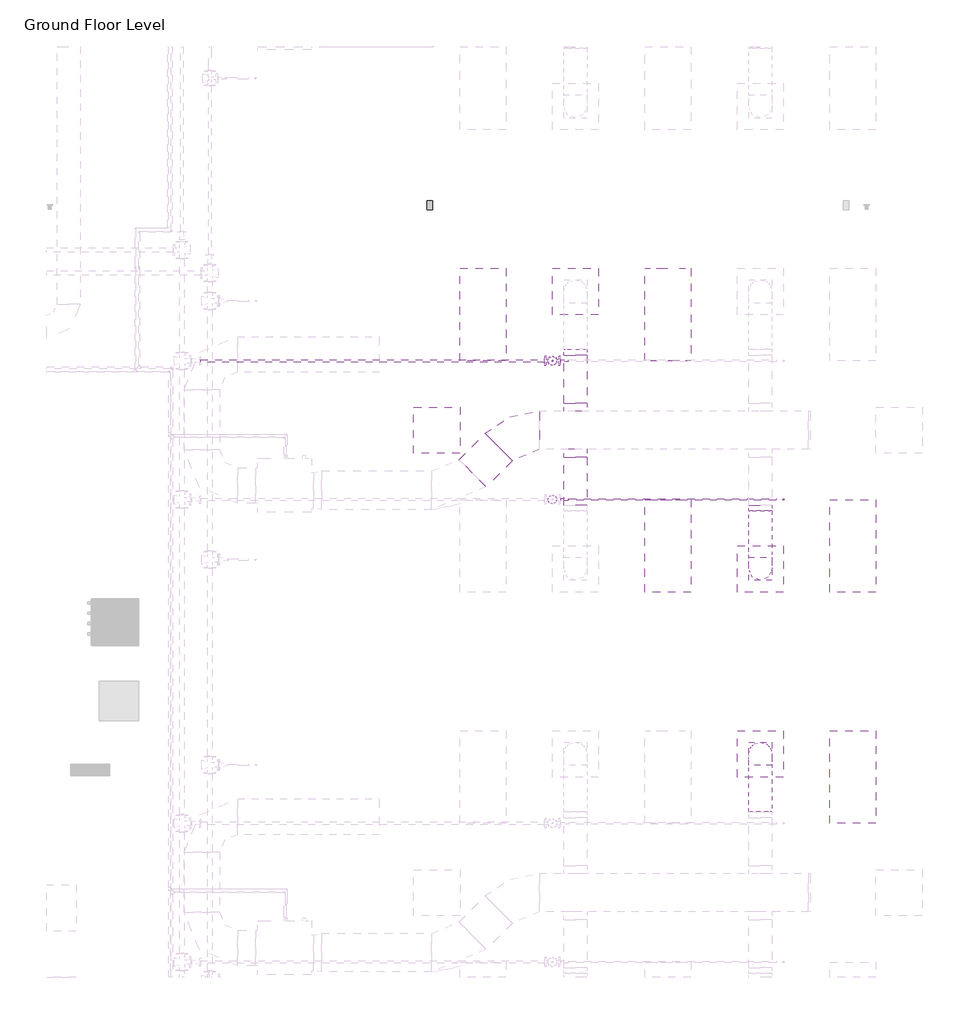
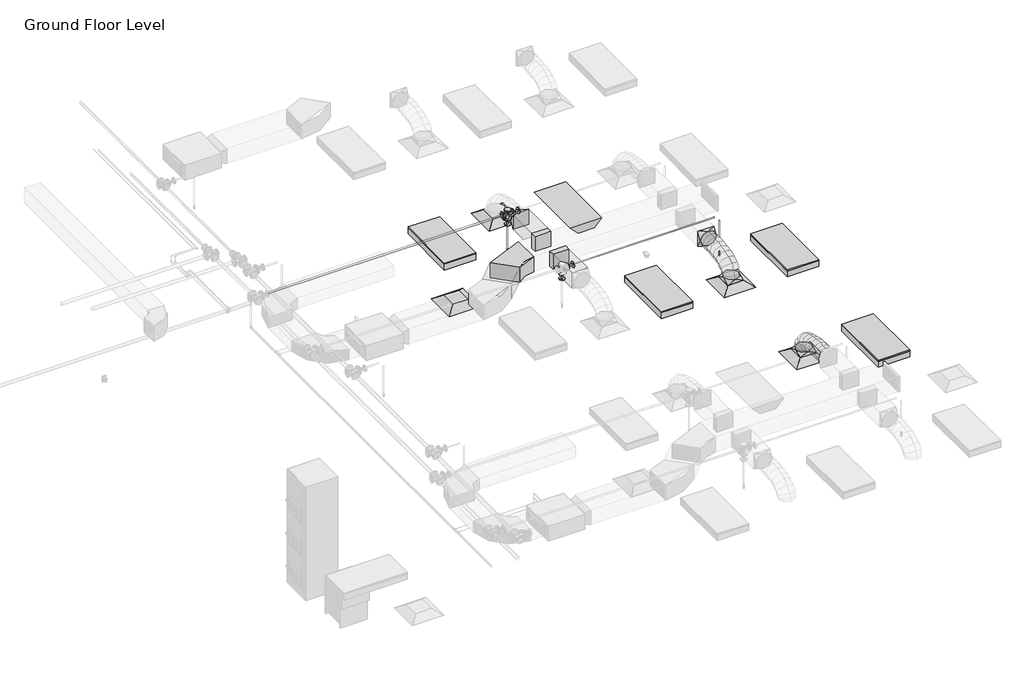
# One storey, part 69 of 74: 7 duct fittings, 5 duct segments, 5 light fixtures, 5 pipe fittings, 4 air terminals, 4 pipe segments, 2 fire suppression terminals, 1 proxy.
"""IFC4 building model written with IfcOpenShell, lengths in millimetres."""

from ifc_helpers import new_model, si_unit, point, frame, frame_2d, origin, place, context, project, spatial, polyline, circle_curve, ellipse_curve, trimmed, segment, composite_curve, outline, extrude, transform, mapped, element, save
from ifc_brep_helpers import plane_surface, cylinder_surface, advanced_brep
from components import m_return_diffuser_600_x_600_face_300_x_300_connection_ff221211, m_duplex_receptacle_standard_10251bba, m_rectangular_elbow_radius_1_5_w_acc56c25, m_rectangular_takeoff_standard_cb0ccb98, m_rectangular_takeoff_standard_2be5eba1, m_rectangular_to_round_transition_angle_45_degree_641efff0, m_sprinkler_dry_pendent_hosted_15_mm_dry_pendent_9bda8e11, m_emergency_recessed_lighting_fixture_600x1200_277_5b10b25d, m_troffer_light_parabolic_rectangular1_0600x1200mm_4_lamp_86473d4a, m_reducer_flanged_cs_class_150_standard_ccf252ad, m_tee_round_base_flanged_cs_class_150_standard_7e5987a1

model = new_model("IFC4")

# Units and contexts
model_context = context("Model", 3, world=origin())
ifc_project = project(units=[si_unit("LENGTHUNIT", "METRE", prefix="MILLI")], contexts=[model_context])

# Site, building, storey
site = spatial("IfcSite", under=ifc_project)
building = spatial("IfcBuilding", under=site)
storey = spatial("IfcBuildingStorey", under=building, Name="Ground Floor Level", Elevation=900.0)

# Air terminals
placement = place(None, origin())
m_return_diffuser_600_x_600_face_300_x_300_connection_shape = m_return_diffuser_600_x_600_face_300_x_300_connection_ff221211(model_context)
element("IfcAirTerminal", 1, ObjectType="M_Return Diffuser : 600 x 600 Face 300 x 300 Connection", at=placement, inside=storey, context=model_context, shape_type="MappedRepresentation", body=[
    mapped(m_return_diffuser_600_x_600_face_300_x_300_connection_shape, transform((8942.7672395, 12735.2153534, 3650.0), x_axis=(1.0, 0.0, 0.0), y_axis=(0.0, 1.0, 0.0), z_axis=(0.0, 0.0, 1.0))),
])
element("IfcAirTerminal", 2, ObjectType="M_Supply Diffuser : 600 x 600 Face 300 x 300 Connection", at=placement, inside=storey, context=model_context, shape_type="MappedRepresentation", body=[
    mapped(m_return_diffuser_600_x_600_face_300_x_300_connection_shape, transform((10742.7672395, 14535.2153534, 3650.0), x_axis=(1.0, 0.0, 0.0), y_axis=(0.0, 1.0, 0.0), z_axis=(0.0, 0.0, 1.0))),
])
element("IfcAirTerminal", 3, ObjectType="M_Supply Diffuser : 600 x 600 Face 300 x 300 Connection", at=placement, inside=storey, context=model_context, shape_type="MappedRepresentation", body=[
    mapped(m_return_diffuser_600_x_600_face_300_x_300_connection_shape, transform((13142.7672395, 10935.2153534, 3650.0), x_axis=(1.0, 0.0, 0.0), y_axis=(0.0, 1.0, 0.0), z_axis=(0.0, 0.0, 1.0))),
])
element("IfcAirTerminal", 4, ObjectType="M_Supply Diffuser : 600 x 600 Face 300 x 300 Connection", at=placement, inside=storey, context=model_context, shape_type="MappedRepresentation", body=[
    mapped(m_return_diffuser_600_x_600_face_300_x_300_connection_shape, transform((13142.7672395, 8535.2153534, 3650.0), x_axis=(1.0, 0.0, 0.0), y_axis=(0.0, 1.0, 0.0), z_axis=(0.0, 0.0, 1.0))),
])

# Proxy
m_duplex_receptacle_standard_shape = m_duplex_receptacle_standard_10251bba(model_context)
element("IfcBuildingElementProxy", 5, Name="M_Duplex Receptacle : Standard", ObjectType="M_Duplex Receptacle : Standard", at=placement, inside=storey, context=model_context, shape_type="MappedRepresentation", body=[
    mapped(m_duplex_receptacle_standard_shape, transform((8852.7672395, 15655.2153534, 1000.0), x_axis=(1.0, 0.0, 0.0), y_axis=(0.0, 1.0, 0.0), z_axis=(0.0, 0.0, 1.0))),
])

# Duct fittings
m_rectangular_elbow_radius_1_5_w_shape = m_rectangular_elbow_radius_1_5_w_acc56c25(model_context)
element("IfcDuctFitting", 6, ObjectType="M_Rectangular Elbow - Radius : 1.5 W", at=placement, inside=storey, context=model_context, shape_type="MappedRepresentation", body=[
    mapped(m_rectangular_elbow_radius_1_5_w_shape, transform((9966.7301365, 12735.2153534, 4100.0), x_axis=(-1.0, 0.0, 0.0), y_axis=(0.0, -0.9999999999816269, 6.061864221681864e-06), z_axis=(0.0, 6.061864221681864e-06, 0.9999999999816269))),
])
m_rectangular_takeoff_standard_shape = m_rectangular_takeoff_standard_cb0ccb98(model_context)
element("IfcDuctFitting", 7, ObjectType="M_Rectangular Takeoff : Standard", at=placement, inside=storey, context=model_context, shape_type="MappedRepresentation", body=[
    mapped(m_rectangular_takeoff_standard_shape, transform((10742.7672395, 12985.2153534, 4100.0), x_axis=(0.0, 1.0, 0.0), y_axis=(1.0, 0.0, 0.0), z_axis=(0.0, 0.0, -1.0))),
])
m_rectangular_takeoff_standard_2_shape = m_rectangular_takeoff_standard_2be5eba1(model_context)
element("IfcDuctFitting", 8, ObjectType="M_Rectangular Takeoff : Standard", at=placement, inside=storey, context=model_context, shape_type="MappedRepresentation", body=[
    mapped(m_rectangular_takeoff_standard_2_shape, transform((10742.7672395, 12485.2153534, 4100.0), x_axis=(0.0, -1.0, 0.0), y_axis=(-1.0, 0.0, 0.0), z_axis=(0.0, 0.0, -1.0))),
])
m_rectangular_to_round_transition_angle_45_degree_shape = m_rectangular_to_round_transition_angle_45_degree_641efff0(model_context)
element("IfcDuctFitting", 9, ObjectType="M_Rectangular to Round Transition - Angle : 45 Degree", at=placement, inside=storey, context=model_context, shape_type="MappedRepresentation", body=[
    mapped(m_rectangular_to_round_transition_angle_45_degree_shape, transform((13142.7672395, 8535.2153534, 3751.6), x_axis=(0.0, 0.0, 1.0), y_axis=(-1.0, 0.0, 0.0), z_axis=(0.0, -1.0, 0.0))),
])
element("IfcDuctFitting", 10, ObjectType="M_Rectangular to Round Transition - Angle : 45 Degree", at=placement, inside=storey, context=model_context, shape_type="MappedRepresentation", body=[
    mapped(m_rectangular_to_round_transition_angle_45_degree_shape, transform((10742.7672395, 13707.8794221, 4100.0), x_axis=(0.0, 1.0, 0.0), y_axis=(-1.0, 0.0, 0.0), z_axis=(0.0, 0.0, 1.0))),
])
element("IfcDuctFitting", 11, ObjectType="M_Rectangular to Round Transition - Angle : 45 Degree", at=placement, inside=storey, context=model_context, shape_type="MappedRepresentation", body=[
    mapped(m_rectangular_to_round_transition_angle_45_degree_shape, transform((13142.7672395, 10935.2153534, 3751.6), x_axis=(0.0, 0.0, 1.0), y_axis=(-1.0, 0.0, 0.0), z_axis=(0.0, -1.0, 0.0))),
])
element("IfcDuctFitting", 12, ObjectType="M_Rectangular to Round Transition - Angle : 45 Degree", at=placement, inside=storey, context=model_context, shape_type="MappedRepresentation", body=[
    mapped(m_rectangular_to_round_transition_angle_45_degree_shape, transform((13142.7672395, 11762.5512847, 4100.0), x_axis=(0.0, -1.0, 0.0), y_axis=(1.0, 0.0, 0.0), z_axis=(0.0, 0.0, 1.0))),
])

# Duct segments
element("IfcDuctSegment", 13, ObjectType="Flex - Round", at=placement, inside=storey, context=model_context, shape_type="AdvancedBrep", body=[
    advanced_brep(
    [(13292.7672395, 8535.2153534, 3826.6), (13142.7672395, 8385.2153534, 3826.6), (12992.7672395, 8535.2153534, 3826.6), (13142.7672395, 8685.2153534, 3826.6), (13292.7672395, 8535.2153534, 3857.9377114), (13142.7672395, 8385.2153534, 3832.2944892), (12992.7672395, 8535.2153534, 3857.9377114), (13142.7672395, 8685.2153534, 3883.5809337), (13292.7672395, 8518.1994208, 3906.2505728), (13142.7672395, 8384.4614419, 3834.435049), (12992.7672395, 8518.1994208, 3906.2505728), (13142.7672395, 8651.9373998, 3978.0660967), (13292.7672395, 8471.0155405, 3968.7113131), (13142.7672395, 8366.8096412, 3857.8020236), (12992.7672395, 8471.0155405, 3968.7113131), (13142.7672395, 8575.2214397, 4079.6206026), (13292.7672395, 8399.4595883, 4016.0700639), (13142.7672395, 8330.5255327, 3881.8163788), (12992.7672395, 8399.4595883, 4016.0700639), (13142.7672395, 8468.3936439, 4150.3237489), (13292.7672395, 8309.3274403, 4050.4146682), (13142.7672395, 8265.7666771, 3906.4925606), (12992.7672395, 8309.3274403, 4050.4146682), (13142.7672395, 8352.8882035, 4194.3367758), (13292.7672395, 8206.4149725, 4073.8329691), (13142.7672395, 8179.8540485, 3926.0424542), (12992.7672395, 8206.4149725, 4073.8329691), (13142.7672395, 8232.9758965, 4221.6234841), (13292.7672395, 8096.5180607, 4088.4128097), (13142.7672395, 8081.3671584, 3939.1085462), (12992.7672395, 8096.5180607, 4088.4128097), (13142.7672395, 8111.6689631, 4237.7170733), (13292.7672395, 7985.4325811, 4096.242033), (13142.7672395, 7977.9272529, 3946.398915), (12992.7672395, 7985.4325811, 4096.242033), (13142.7672395, 7992.9379093, 4246.085151), (13292.7672395, 7878.9544096, 4099.4084821), (13142.7672395, 7876.2629165, 3949.4222102), (12992.7672395, 7878.9544096, 4099.4084821), (13142.7672395, 7881.6459027, 4249.394754), (13292.7672395, 7782.8794221, 4100.0), (13142.7672395, 7783.8029299, 4249.9971571), (12992.7672395, 7782.8794221, 4100.0), (13142.7672395, 7781.9559143, 3950.0028429)],
    [
        (0, 1, circle_curve(frame((13142.7672395, 8535.2153534, 3826.6), z_axis=(0.0, 0.0, -1.0), x_axis=(1.0, 0.0, 0.0)), 150.0)),
        (1, 2, circle_curve(frame((13142.7672395, 8535.2153534, 3826.6), z_axis=(0.0, 0.0, -1.0), x_axis=(1.0, 0.0, 0.0)), 150.0)),
        (2, 3, circle_curve(frame((13142.7672395, 8535.2153534, 3826.6), z_axis=(0.0, 0.0, -1.0), x_axis=(1.0, 0.0, 0.0)), 150.0)),
        (3, 0, circle_curve(frame((13142.7672395, 8535.2153534, 3826.6), z_axis=(0.0, 0.0, -1.0), x_axis=(1.0, 0.0, 0.0)), 150.0)),
        (0, 4),
        (4, 5, ellipse_curve(frame((13142.7672395, 8535.2153534, 3857.9377114), z_axis=(0.0, 0.16851014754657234, -0.9856999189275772), x_axis=(0.0, -0.9856999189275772, -0.1685101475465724)), 152.176131, 150.0)),
        (5, 1),
        (5, 6, ellipse_curve(frame((13142.7672395, 8535.2153534, 3857.9377114), z_axis=(0.0, 0.16851014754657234, -0.9856999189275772), x_axis=(0.0, -0.9856999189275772, -0.1685101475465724)), 152.176131, 150.0)),
        (6, 2),
        (6, 7, ellipse_curve(frame((13142.7672395, 8535.2153534, 3857.9377114), z_axis=(0.0, 0.16851014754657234, -0.9856999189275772), x_axis=(0.0, -0.9856999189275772, -0.1685101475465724)), 152.176131, 150.0)),
        (7, 3),
        (7, 4, ellipse_curve(frame((13142.7672395, 8535.2153534, 3857.9377114), z_axis=(0.0, 0.16851014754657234, -0.9856999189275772), x_axis=(0.0, -0.9856999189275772, -0.1685101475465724)), 152.176131, 150.0)),
        (4, 8),
        (8, 9, ellipse_curve(frame((13142.7672395, 8518.1994208, 3906.2505728), z_axis=(0.0, 0.4730922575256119, -0.8810128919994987), x_axis=(0.0, -0.8810128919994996, -0.47309225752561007)), 151.8002519, 150.0)),
        (9, 5),
        (9, 10, ellipse_curve(frame((13142.7672395, 8518.1994208, 3906.2505728), z_axis=(0.0, 0.4730922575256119, -0.8810128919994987), x_axis=(0.0, -0.8810128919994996, -0.47309225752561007)), 151.8002519, 150.0)),
        (10, 6),
        (10, 11, ellipse_curve(frame((13142.7672395, 8518.1994208, 3906.2505728), z_axis=(0.0, 0.4730922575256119, -0.8810128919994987), x_axis=(0.0, -0.8810128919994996, -0.47309225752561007)), 151.8002519, 150.0)),
        (11, 7),
        (11, 8, ellipse_curve(frame((13142.7672395, 8518.1994208, 3906.2505728), z_axis=(0.0, 0.4730922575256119, -0.8810128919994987), x_axis=(0.0, -0.8810128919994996, -0.47309225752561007)), 151.8002519, 150.0)),
        (8, 12),
        (12, 13, ellipse_curve(frame((13142.7672395, 8471.0155405, 3968.7113131), z_axis=(0.0, 0.7287877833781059, -0.6847396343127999), x_axis=(0.0, -0.6847396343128, -0.7287877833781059)), 152.1832446, 150.0)),
        (13, 9),
        (13, 14, ellipse_curve(frame((13142.7672395, 8471.0155405, 3968.7113131), z_axis=(0.0, 0.7287877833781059, -0.6847396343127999), x_axis=(0.0, -0.6847396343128, -0.7287877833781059)), 152.1832446, 150.0)),
        (14, 10),
        (14, 15, ellipse_curve(frame((13142.7672395, 8471.0155405, 3968.7113131), z_axis=(0.0, 0.7287877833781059, -0.6847396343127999), x_axis=(0.0, -0.6847396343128, -0.7287877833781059)), 152.1832446, 150.0)),
        (15, 11),
        (15, 12, ellipse_curve(frame((13142.7672395, 8471.0155405, 3968.7113131), z_axis=(0.0, 0.7287877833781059, -0.6847396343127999), x_axis=(0.0, -0.6847396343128, -0.7287877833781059)), 152.1832446, 150.0)),
        (12, 16),
        (16, 17, ellipse_curve(frame((13142.7672395, 8399.4595883, 4016.0700639), z_axis=(0.0, 0.8895859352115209, -0.4567678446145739), x_axis=(0.0, -0.4567678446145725, -0.8895859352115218)), 150.91705, 150.0)),
        (17, 13),
        (17, 18, ellipse_curve(frame((13142.7672395, 8399.4595883, 4016.0700639), z_axis=(0.0, 0.8895859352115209, -0.4567678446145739), x_axis=(0.0, -0.4567678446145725, -0.8895859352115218)), 150.91705, 150.0)),
        (18, 14),
        (18, 19, ellipse_curve(frame((13142.7672395, 8399.4595883, 4016.0700639), z_axis=(0.0, 0.8895859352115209, -0.4567678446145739), x_axis=(0.0, -0.4567678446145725, -0.8895859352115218)), 150.91705, 150.0)),
        (19, 15),
        (19, 16, ellipse_curve(frame((13142.7672395, 8399.4595883, 4016.0700639), z_axis=(0.0, 0.8895859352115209, -0.4567678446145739), x_axis=(0.0, -0.4567678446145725, -0.8895859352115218)), 150.91705, 150.0)),
        (16, 20),
        (20, 21, ellipse_curve(frame((13142.7672395, 8309.3274403, 4050.4146682), z_axis=(0.0, 0.9571203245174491, -0.28969067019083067), x_axis=(0.0, -0.28969067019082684, -0.9571203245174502)), 150.369921, 150.0)),
        (21, 17),
        (21, 22, ellipse_curve(frame((13142.7672395, 8309.3274403, 4050.4146682), z_axis=(0.0, 0.9571203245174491, -0.28969067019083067), x_axis=(0.0, -0.28969067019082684, -0.9571203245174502)), 150.369921, 150.0)),
        (22, 18),
        (22, 23, ellipse_curve(frame((13142.7672395, 8309.3274403, 4050.4146682), z_axis=(0.0, 0.9571203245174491, -0.28969067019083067), x_axis=(0.0, -0.28969067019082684, -0.9571203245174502)), 150.369921, 150.0)),
        (23, 19),
        (23, 20, ellipse_curve(frame((13142.7672395, 8309.3274403, 4050.4146682), z_axis=(0.0, 0.9571203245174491, -0.28969067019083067), x_axis=(0.0, -0.28969067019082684, -0.9571203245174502)), 150.369921, 150.0)),
        (20, 24),
        (24, 25, ellipse_curve(frame((13142.7672395, 8206.4149725, 4073.8329691), z_axis=(0.0, 0.9842313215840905, -0.17688613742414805), x_axis=(0.0, -0.17688613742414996, -0.9842313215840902)), 150.1583131, 150.0)),
        (25, 21),
        (25, 26, ellipse_curve(frame((13142.7672395, 8206.4149725, 4073.8329691), z_axis=(0.0, 0.9842313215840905, -0.17688613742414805), x_axis=(0.0, -0.17688613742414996, -0.9842313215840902)), 150.1583131, 150.0)),
        (26, 22),
        (26, 27, ellipse_curve(frame((13142.7672395, 8206.4149725, 4073.8329691), z_axis=(0.0, 0.9842313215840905, -0.17688613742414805), x_axis=(0.0, -0.17688613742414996, -0.9842313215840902)), 150.1583131, 150.0)),
        (27, 23),
        (27, 24, ellipse_curve(frame((13142.7672395, 8206.4149725, 4073.8329691), z_axis=(0.0, 0.9842313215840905, -0.17688613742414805), x_axis=(0.0, -0.17688613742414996, -0.9842313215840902)), 150.1583131, 150.0)),
        (24, 28),
        (28, 29, ellipse_curve(frame((13142.7672395, 8096.5180607, 4088.4128097), z_axis=(0.0, 0.9948906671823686, -0.10095821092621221), x_axis=(0.0, -0.10095821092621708, -0.9948906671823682)), 150.0710264, 150.0)),
        (29, 25),
        (29, 30, ellipse_curve(frame((13142.7672395, 8096.5180607, 4088.4128097), z_axis=(0.0, 0.9948906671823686, -0.10095821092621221), x_axis=(0.0, -0.10095821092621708, -0.9948906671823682)), 150.0710264, 150.0)),
        (30, 26),
        (30, 31, ellipse_curve(frame((13142.7672395, 8096.5180607, 4088.4128097), z_axis=(0.0, 0.9948906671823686, -0.10095821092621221), x_axis=(0.0, -0.10095821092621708, -0.9948906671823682)), 150.0710264, 150.0)),
        (31, 27),
        (31, 28, ellipse_curve(frame((13142.7672395, 8096.5180607, 4088.4128097), z_axis=(0.0, 0.9948906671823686, -0.10095821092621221), x_axis=(0.0, -0.10095821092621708, -0.9948906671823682)), 150.0710264, 150.0)),
        (28, 32),
        (32, 33, ellipse_curve(frame((13142.7672395, 7985.4325811, 4096.242033), z_axis=(0.0, 0.9987479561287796, -0.05002519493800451), x_axis=(0.0, -0.050025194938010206, -0.9987479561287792)), 150.0309634, 150.0)),
        (33, 29),
        (33, 34, ellipse_curve(frame((13142.7672395, 7985.4325811, 4096.242033), z_axis=(0.0, 0.9987479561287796, -0.05002519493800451), x_axis=(0.0, -0.050025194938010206, -0.9987479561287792)), 150.0309634, 150.0)),
        (34, 30),
        (34, 35, ellipse_curve(frame((13142.7672395, 7985.4325811, 4096.242033), z_axis=(0.0, 0.9987479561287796, -0.05002519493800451), x_axis=(0.0, -0.050025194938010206, -0.9987479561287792)), 150.0309634, 150.0)),
        (35, 31),
        (35, 32, ellipse_curve(frame((13142.7672395, 7985.4325811, 4096.242033), z_axis=(0.0, 0.9987479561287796, -0.05002519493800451), x_axis=(0.0, -0.050025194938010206, -0.9987479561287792)), 150.0309634, 150.0)),
        (32, 36),
        (36, 37, ellipse_curve(frame((13142.7672395, 7878.9544096, 4099.4084821), z_axis=(0.0, 0.9998390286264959, -0.017942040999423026), x_axis=(0.0, -0.01794204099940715, -0.9998390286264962)), 150.0104193, 150.0)),
        (37, 33),
        (37, 38, ellipse_curve(frame((13142.7672395, 7878.9544096, 4099.4084821), z_axis=(0.0, 0.9998390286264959, -0.017942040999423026), x_axis=(0.0, -0.01794204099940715, -0.9998390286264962)), 150.0104193, 150.0)),
        (38, 34),
        (38, 39, ellipse_curve(frame((13142.7672395, 7878.9544096, 4099.4084821), z_axis=(0.0, 0.9998390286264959, -0.017942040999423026), x_axis=(0.0, -0.01794204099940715, -0.9998390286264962)), 150.0104193, 150.0)),
        (39, 35),
        (39, 36, ellipse_curve(frame((13142.7672395, 7878.9544096, 4099.4084821), z_axis=(0.0, 0.9998390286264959, -0.017942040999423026), x_axis=(0.0, -0.01794204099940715, -0.9998390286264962)), 150.0104193, 150.0)),
        (40, 41, circle_curve(frame((13142.7672395, 7782.8794221, 4100.0), z_axis=(0.0, -0.9999810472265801, 0.006156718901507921), x_axis=(1.0, 0.0, 0.0)), 150.0)),
        (41, 42, circle_curve(frame((13142.7672395, 7782.8794221, 4100.0), z_axis=(0.0, -0.9999810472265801, 0.006156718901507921), x_axis=(1.0, 0.0, 0.0)), 150.0)),
        (42, 43, circle_curve(frame((13142.7672395, 7782.8794221, 4100.0), z_axis=(0.0, -0.9999810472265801, 0.006156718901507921), x_axis=(1.0, 0.0, 0.0)), 150.0)),
        (43, 40, circle_curve(frame((13142.7672395, 7782.8794221, 4100.0), z_axis=(0.0, -0.9999810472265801, 0.006156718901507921), x_axis=(1.0, 0.0, 0.0)), 150.0)),
        (36, 40),
        (43, 37),
        (42, 38),
        (41, 39),
    ],
    [
        plane_surface(frame((13142.7672395, 8385.2153534, 3826.6), z_axis=(0.0, 0.0, -1.0), x_axis=(1.0, 0.0, 0.0))),
        cylinder_surface(frame((13142.7672395, 8535.2153534, 3826.6), z_axis=(0.0, 0.0, -1.0), x_axis=(1.0, 0.0, 0.0)), 150.0),
        cylinder_surface(frame((13142.7672395, 8535.2153534, 3857.9377114), z_axis=(0.0, 0.3322008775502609, -0.9432086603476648), x_axis=(1.0, 0.0, 0.0)), 150.0),
        cylinder_surface(frame((13142.7672395, 8518.1994208, 3906.2505728), z_axis=(0.0, 0.6027625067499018, -0.7979206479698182), x_axis=(1.0, 0.0, 0.0)), 150.0),
        cylinder_surface(frame((13142.7672395, 8471.0155405, 3968.7113131), z_axis=(0.0, 0.8339024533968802, -0.5519118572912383), x_axis=(1.0, 0.0, 0.0)), 150.0),
        cylinder_surface(frame((13142.7672395, 8399.4595883, 4016.0700639), z_axis=(0.0, 0.934458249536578, -0.35607271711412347), x_axis=(1.0, 0.0, 0.0)), 150.0),
        cylinder_surface(frame((13142.7672395, 8309.3274403, 4050.4146682), z_axis=(0.0, 0.9750732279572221, -0.22188330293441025), x_axis=(1.0, 0.0, 0.0)), 150.0),
        cylinder_surface(frame((13142.7672395, 8206.4149725, 4073.8329691), z_axis=(0.0, 0.9913140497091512, -0.1315159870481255), x_axis=(1.0, 0.0, 0.0)), 150.0),
        cylinder_surface(frame((13142.7672395, 8096.5180607, 4088.4128097), z_axis=(0.0, 0.9975255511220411, -0.07030487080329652), x_axis=(1.0, 0.0, 0.0)), 150.0),
        cylinder_surface(frame((13142.7672395, 7985.4325811, 4096.242033), z_axis=(0.0, 0.9995581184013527, -0.02972487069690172), x_axis=(1.0, 0.0, 0.0)), 150.0),
        plane_surface(frame((13142.7672395, 7781.9559143, 3950.0028429), z_axis=(0.0, -0.9999810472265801, 0.006156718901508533), x_axis=(1.0, 0.0, 0.0))),
        cylinder_surface(frame((13142.7672395, 7878.9544096, 4099.4084821), z_axis=(0.0, 0.9999810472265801, -0.006156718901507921), x_axis=(1.0, 0.0, 0.0)), 150.0),
    ],
    [
        (0, [[1, 2, 3, 4]]),
        (1, [[-1, 5, 6, 7]]),
        (1, [[-2, -7, 8, 9]]),
        (1, [[-3, -9, 10, 11]]),
        (1, [[-4, -11, 12, -5]]),
        (2, [[-6, 13, 14, 15]]),
        (2, [[-8, -15, 16, 17]]),
        (2, [[-10, -17, 18, 19]]),
        (2, [[-12, -19, 20, -13]]),
        (3, [[-14, 21, 22, 23]]),
        (3, [[-16, -23, 24, 25]]),
        (3, [[-18, -25, 26, 27]]),
        (3, [[-20, -27, 28, -21]]),
        (4, [[-22, 29, 30, 31]]),
        (4, [[-24, -31, 32, 33]]),
        (4, [[-26, -33, 34, 35]]),
        (4, [[-28, -35, 36, -29]]),
        (5, [[-30, 37, 38, 39]]),
        (5, [[-32, -39, 40, 41]]),
        (5, [[-34, -41, 42, 43]]),
        (5, [[-36, -43, 44, -37]]),
        (6, [[-38, 45, 46, 47]]),
        (6, [[-40, -47, 48, 49]]),
        (6, [[-42, -49, 50, 51]]),
        (6, [[-44, -51, 52, -45]]),
        (7, [[-46, 53, 54, 55]]),
        (7, [[-48, -55, 56, 57]]),
        (7, [[-50, -57, 58, 59]]),
        (7, [[-52, -59, 60, -53]]),
        (8, [[-54, 61, 62, 63]]),
        (8, [[-56, -63, 64, 65]]),
        (8, [[-58, -65, 66, 67]]),
        (8, [[-60, -67, 68, -61]]),
        (9, [[-62, 69, 70, 71]]),
        (9, [[-64, -71, 72, 73]]),
        (9, [[-66, -73, 74, 75]]),
        (9, [[-68, -75, 76, -69]]),
        (10, [[77, 78, 79, 80]]),
        (11, [[-70, 81, -80, 82]]),
        (11, [[-72, -82, -79, 83]]),
        (11, [[-74, -83, -78, 84]]),
        (11, [[-76, -84, -77, -81]]),
    ],
),
])
element("IfcDuctSegment", 14, ObjectType="Flex - Round", at=placement, inside=storey, context=model_context, shape_type="AdvancedBrep", body=[
    advanced_brep(
    [(13292.7672395, 10935.2153534, 3826.6), (13142.7672395, 10785.2153534, 3826.6), (12992.7672395, 10935.2153534, 3826.6), (13142.7672395, 11085.2153534, 3826.6), (13292.7672395, 10935.2153534, 3857.9377114), (13142.7672395, 10785.2153534, 3883.5809337), (12992.7672395, 10935.2153534, 3857.9377114), (13142.7672395, 11085.2153534, 3832.2944892), (13292.7672395, 10952.2312859, 3906.2505728), (13142.7672395, 10818.493307, 3978.0660967), (12992.7672395, 10952.2312859, 3906.2505728), (13142.7672395, 11085.9692649, 3834.435049), (13292.7672395, 10999.4151663, 3968.7113131), (13142.7672395, 10895.209267, 4079.6206026), (12992.7672395, 10999.4151663, 3968.7113131), (13142.7672395, 11103.6210655, 3857.8020236), (13292.7672395, 11070.9711184, 4016.0700639), (13142.7672395, 11002.0370628, 4150.3237489), (12992.7672395, 11070.9711184, 4016.0700639), (13142.7672395, 11139.9051741, 3881.8163788), (13292.7672395, 11161.1032664, 4050.4146682), (13142.7672395, 11117.5425033, 4194.3367758), (12992.7672395, 11161.1032664, 4050.4146682), (13142.7672395, 11204.6640296, 3906.4925606), (13292.7672395, 11264.0157343, 4073.8329691), (13142.7672395, 11237.4548103, 4221.6234841), (12992.7672395, 11264.0157343, 4073.8329691), (13142.7672395, 11290.5766583, 3926.0424542), (13292.7672395, 11373.912646, 4088.4128097), (13142.7672395, 11358.7617437, 4237.7170733), (12992.7672395, 11373.912646, 4088.4128097), (13142.7672395, 11389.0635483, 3939.1085462), (13292.7672395, 11484.9981256, 4096.242033), (13142.7672395, 11477.4927975, 4246.085151), (12992.7672395, 11484.9981256, 4096.242033), (13142.7672395, 11492.5034538, 3946.398915), (13292.7672395, 11591.4762972, 4099.4084821), (13142.7672395, 11588.7848041, 4249.394754), (12992.7672395, 11591.4762972, 4099.4084821), (13142.7672395, 11594.1677903, 3949.4222102), (13292.7672395, 11687.5512847, 4100.0), (13142.7672395, 11688.4747925, 3950.0028429), (12992.7672395, 11687.5512847, 4100.0), (13142.7672395, 11686.6277768, 4249.9971571)],
    [
        (0, 1, circle_curve(frame((13142.7672395, 10935.2153534, 3826.6), z_axis=(0.0, 0.0, -1.0), x_axis=(1.0, 0.0, 0.0)), 150.0)),
        (1, 2, circle_curve(frame((13142.7672395, 10935.2153534, 3826.6), z_axis=(0.0, 0.0, -1.0), x_axis=(1.0, 0.0, 0.0)), 150.0)),
        (2, 3, circle_curve(frame((13142.7672395, 10935.2153534, 3826.6), z_axis=(0.0, 0.0, -1.0), x_axis=(1.0, 0.0, 0.0)), 150.0)),
        (3, 0, circle_curve(frame((13142.7672395, 10935.2153534, 3826.6), z_axis=(0.0, 0.0, -1.0), x_axis=(1.0, 0.0, 0.0)), 150.0)),
        (0, 4),
        (4, 5, ellipse_curve(frame((13142.7672395, 10935.2153534, 3857.9377114), z_axis=(0.0, -0.16851014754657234, -0.9856999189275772), x_axis=(0.0, 0.9856999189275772, -0.1685101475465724)), 152.176131, 150.0)),
        (5, 1),
        (5, 6, ellipse_curve(frame((13142.7672395, 10935.2153534, 3857.9377114), z_axis=(0.0, -0.16851014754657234, -0.9856999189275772), x_axis=(0.0, 0.9856999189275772, -0.1685101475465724)), 152.176131, 150.0)),
        (6, 2),
        (6, 7, ellipse_curve(frame((13142.7672395, 10935.2153534, 3857.9377114), z_axis=(0.0, -0.16851014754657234, -0.9856999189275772), x_axis=(0.0, 0.9856999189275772, -0.1685101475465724)), 152.176131, 150.0)),
        (7, 3),
        (7, 4, ellipse_curve(frame((13142.7672395, 10935.2153534, 3857.9377114), z_axis=(0.0, -0.16851014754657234, -0.9856999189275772), x_axis=(0.0, 0.9856999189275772, -0.1685101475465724)), 152.176131, 150.0)),
        (4, 8),
        (8, 9, ellipse_curve(frame((13142.7672395, 10952.2312859, 3906.2505728), z_axis=(0.0, -0.47309225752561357, -0.8810128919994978), x_axis=(0.0, 0.8810128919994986, -0.47309225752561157)), 151.8002519, 150.0)),
        (9, 5),
        (9, 10, ellipse_curve(frame((13142.7672395, 10952.2312859, 3906.2505728), z_axis=(0.0, -0.47309225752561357, -0.8810128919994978), x_axis=(0.0, 0.8810128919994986, -0.47309225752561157)), 151.8002519, 150.0)),
        (10, 6),
        (10, 11, ellipse_curve(frame((13142.7672395, 10952.2312859, 3906.2505728), z_axis=(0.0, -0.47309225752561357, -0.8810128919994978), x_axis=(0.0, 0.8810128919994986, -0.47309225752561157)), 151.8002519, 150.0)),
        (11, 7),
        (11, 8, ellipse_curve(frame((13142.7672395, 10952.2312859, 3906.2505728), z_axis=(0.0, -0.47309225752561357, -0.8810128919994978), x_axis=(0.0, 0.8810128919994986, -0.47309225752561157)), 151.8002519, 150.0)),
        (8, 12),
        (12, 13, ellipse_curve(frame((13142.7672395, 10999.4151663, 3968.7113131), z_axis=(0.0, -0.7287877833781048, -0.6847396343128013), x_axis=(0.0, 0.6847396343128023, -0.7287877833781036)), 152.1832446, 150.0)),
        (13, 9),
        (13, 14, ellipse_curve(frame((13142.7672395, 10999.4151663, 3968.7113131), z_axis=(0.0, -0.7287877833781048, -0.6847396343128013), x_axis=(0.0, 0.6847396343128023, -0.7287877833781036)), 152.1832446, 150.0)),
        (14, 10),
        (14, 15, ellipse_curve(frame((13142.7672395, 10999.4151663, 3968.7113131), z_axis=(0.0, -0.7287877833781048, -0.6847396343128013), x_axis=(0.0, 0.6847396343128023, -0.7287877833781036)), 152.1832446, 150.0)),
        (15, 11),
        (15, 12, ellipse_curve(frame((13142.7672395, 10999.4151663, 3968.7113131), z_axis=(0.0, -0.7287877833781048, -0.6847396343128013), x_axis=(0.0, 0.6847396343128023, -0.7287877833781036)), 152.1832446, 150.0)),
        (12, 16),
        (16, 17, ellipse_curve(frame((13142.7672395, 11070.9711184, 4016.0700639), z_axis=(0.0, -0.8895859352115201, -0.45676784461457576), x_axis=(0.0, 0.45676784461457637, -0.8895859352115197)), 150.91705, 150.0)),
        (17, 13),
        (17, 18, ellipse_curve(frame((13142.7672395, 11070.9711184, 4016.0700639), z_axis=(0.0, -0.8895859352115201, -0.45676784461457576), x_axis=(0.0, 0.45676784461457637, -0.8895859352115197)), 150.91705, 150.0)),
        (18, 14),
        (18, 19, ellipse_curve(frame((13142.7672395, 11070.9711184, 4016.0700639), z_axis=(0.0, -0.8895859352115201, -0.45676784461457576), x_axis=(0.0, 0.45676784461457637, -0.8895859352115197)), 150.91705, 150.0)),
        (19, 15),
        (19, 16, ellipse_curve(frame((13142.7672395, 11070.9711184, 4016.0700639), z_axis=(0.0, -0.8895859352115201, -0.45676784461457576), x_axis=(0.0, 0.45676784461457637, -0.8895859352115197)), 150.91705, 150.0)),
        (16, 20),
        (20, 21, ellipse_curve(frame((13142.7672395, 11161.1032664, 4050.4146682), z_axis=(0.0, -0.9571203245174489, -0.2896906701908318), x_axis=(0.0, 0.28969067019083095, -0.9571203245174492)), 150.369921, 150.0)),
        (21, 17),
        (21, 22, ellipse_curve(frame((13142.7672395, 11161.1032664, 4050.4146682), z_axis=(0.0, -0.9571203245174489, -0.2896906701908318), x_axis=(0.0, 0.28969067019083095, -0.9571203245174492)), 150.369921, 150.0)),
        (22, 18),
        (22, 23, ellipse_curve(frame((13142.7672395, 11161.1032664, 4050.4146682), z_axis=(0.0, -0.9571203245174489, -0.2896906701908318), x_axis=(0.0, 0.28969067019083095, -0.9571203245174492)), 150.369921, 150.0)),
        (23, 19),
        (23, 20, ellipse_curve(frame((13142.7672395, 11161.1032664, 4050.4146682), z_axis=(0.0, -0.9571203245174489, -0.2896906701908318), x_axis=(0.0, 0.28969067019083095, -0.9571203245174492)), 150.369921, 150.0)),
        (20, 24),
        (24, 25, ellipse_curve(frame((13142.7672395, 11264.0157343, 4073.8329691), z_axis=(0.0, -0.9842313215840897, -0.17688613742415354), x_axis=(0.0, 0.1768861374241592, -0.9842313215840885)), 150.1583131, 150.0)),
        (25, 21),
        (25, 26, ellipse_curve(frame((13142.7672395, 11264.0157343, 4073.8329691), z_axis=(0.0, -0.9842313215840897, -0.17688613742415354), x_axis=(0.0, 0.1768861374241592, -0.9842313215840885)), 150.1583131, 150.0)),
        (26, 22),
        (26, 27, ellipse_curve(frame((13142.7672395, 11264.0157343, 4073.8329691), z_axis=(0.0, -0.9842313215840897, -0.17688613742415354), x_axis=(0.0, 0.1768861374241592, -0.9842313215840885)), 150.1583131, 150.0)),
        (27, 23),
        (27, 24, ellipse_curve(frame((13142.7672395, 11264.0157343, 4073.8329691), z_axis=(0.0, -0.9842313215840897, -0.17688613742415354), x_axis=(0.0, 0.1768861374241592, -0.9842313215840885)), 150.1583131, 150.0)),
        (24, 28),
        (28, 29, ellipse_curve(frame((13142.7672395, 11373.912646, 4088.4128097), z_axis=(0.0, -0.9948906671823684, -0.10095821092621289), x_axis=(0.0, 0.10095821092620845, -0.9948906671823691)), 150.0710264, 150.0)),
        (29, 25),
        (29, 30, ellipse_curve(frame((13142.7672395, 11373.912646, 4088.4128097), z_axis=(0.0, -0.9948906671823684, -0.10095821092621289), x_axis=(0.0, 0.10095821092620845, -0.9948906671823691)), 150.0710264, 150.0)),
        (30, 26),
        (30, 31, ellipse_curve(frame((13142.7672395, 11373.912646, 4088.4128097), z_axis=(0.0, -0.9948906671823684, -0.10095821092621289), x_axis=(0.0, 0.10095821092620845, -0.9948906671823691)), 150.0710264, 150.0)),
        (31, 27),
        (31, 28, ellipse_curve(frame((13142.7672395, 11373.912646, 4088.4128097), z_axis=(0.0, -0.9948906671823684, -0.10095821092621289), x_axis=(0.0, 0.10095821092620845, -0.9948906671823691)), 150.0710264, 150.0)),
        (28, 32),
        (32, 33, ellipse_curve(frame((13142.7672395, 11484.9981256, 4096.242033), z_axis=(0.0, -0.9987479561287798, -0.050025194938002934), x_axis=(0.0, 0.05002519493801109, -0.9987479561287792)), 150.0309634, 150.0)),
        (33, 29),
        (33, 34, ellipse_curve(frame((13142.7672395, 11484.9981256, 4096.242033), z_axis=(0.0, -0.9987479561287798, -0.050025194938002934), x_axis=(0.0, 0.05002519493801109, -0.9987479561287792)), 150.0309634, 150.0)),
        (34, 30),
        (34, 35, ellipse_curve(frame((13142.7672395, 11484.9981256, 4096.242033), z_axis=(0.0, -0.9987479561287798, -0.050025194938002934), x_axis=(0.0, 0.05002519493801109, -0.9987479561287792)), 150.0309634, 150.0)),
        (35, 31),
        (35, 32, ellipse_curve(frame((13142.7672395, 11484.9981256, 4096.242033), z_axis=(0.0, -0.9987479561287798, -0.050025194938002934), x_axis=(0.0, 0.05002519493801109, -0.9987479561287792)), 150.0309634, 150.0)),
        (32, 36),
        (36, 37, ellipse_curve(frame((13142.7672395, 11591.4762972, 4099.4084821), z_axis=(0.0, -0.9998390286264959, -0.017942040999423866), x_axis=(0.0, 0.017942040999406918, -0.9998390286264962)), 150.0104193, 150.0)),
        (37, 33),
        (37, 38, ellipse_curve(frame((13142.7672395, 11591.4762972, 4099.4084821), z_axis=(0.0, -0.9998390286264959, -0.017942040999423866), x_axis=(0.0, 0.017942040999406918, -0.9998390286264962)), 150.0104193, 150.0)),
        (38, 34),
        (38, 39, ellipse_curve(frame((13142.7672395, 11591.4762972, 4099.4084821), z_axis=(0.0, -0.9998390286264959, -0.017942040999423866), x_axis=(0.0, 0.017942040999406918, -0.9998390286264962)), 150.0104193, 150.0)),
        (39, 35),
        (39, 36, ellipse_curve(frame((13142.7672395, 11591.4762972, 4099.4084821), z_axis=(0.0, -0.9998390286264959, -0.017942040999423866), x_axis=(0.0, 0.017942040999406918, -0.9998390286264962)), 150.0104193, 150.0)),
        (40, 41, circle_curve(frame((13142.7672395, 11687.5512847, 4100.0), z_axis=(0.0, 0.9999810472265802, 0.006156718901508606), x_axis=(1.0, 0.0, 0.0)), 150.0)),
        (41, 42, circle_curve(frame((13142.7672395, 11687.5512847, 4100.0), z_axis=(0.0, 0.9999810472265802, 0.006156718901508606), x_axis=(1.0, 0.0, 0.0)), 150.0)),
        (42, 43, circle_curve(frame((13142.7672395, 11687.5512847, 4100.0), z_axis=(0.0, 0.9999810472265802, 0.006156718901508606), x_axis=(1.0, 0.0, 0.0)), 150.0)),
        (43, 40, circle_curve(frame((13142.7672395, 11687.5512847, 4100.0), z_axis=(0.0, 0.9999810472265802, 0.006156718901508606), x_axis=(1.0, 0.0, 0.0)), 150.0)),
        (36, 40),
        (43, 37),
        (42, 38),
        (41, 39),
    ],
    [
        plane_surface(frame((13142.7672395, 10785.2153534, 3826.6), z_axis=(0.0, 0.0, -1.0), x_axis=(1.0, 0.0, 0.0))),
        cylinder_surface(frame((13142.7672395, 10935.2153534, 3826.6), z_axis=(0.0, 0.0, -1.0), x_axis=(1.0, 0.0, 0.0)), 150.0),
        cylinder_surface(frame((13142.7672395, 10935.2153534, 3857.9377114), z_axis=(0.0, -0.3322008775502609, -0.9432086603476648), x_axis=(1.0, 0.0, 0.0)), 150.0),
        cylinder_surface(frame((13142.7672395, 10952.2312859, 3906.2505728), z_axis=(0.0, -0.6027625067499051, -0.7979206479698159), x_axis=(1.0, 0.0, 0.0)), 150.0),
        cylinder_surface(frame((13142.7672395, 10999.4151663, 3968.7113131), z_axis=(0.0, -0.833902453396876, -0.5519118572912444), x_axis=(1.0, 0.0, 0.0)), 150.0),
        cylinder_surface(frame((13142.7672395, 11070.9711184, 4016.0700639), z_axis=(0.0, -0.9344582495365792, -0.35607271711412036), x_axis=(1.0, 0.0, 0.0)), 150.0),
        cylinder_surface(frame((13142.7672395, 11161.1032664, 4050.4146682), z_axis=(0.0, -0.9750732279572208, -0.22188330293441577), x_axis=(1.0, 0.0, 0.0)), 150.0),
        cylinder_surface(frame((13142.7672395, 11264.0157343, 4073.8329691), z_axis=(0.0, -0.9913140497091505, -0.131515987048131), x_axis=(1.0, 0.0, 0.0)), 150.0),
        cylinder_surface(frame((13142.7672395, 11373.912646, 4088.4128097), z_axis=(0.0, -0.9975255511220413, -0.07030487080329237), x_axis=(1.0, 0.0, 0.0)), 150.0),
        cylinder_surface(frame((13142.7672395, 11484.9981256, 4096.242033), z_axis=(0.0, -0.9995581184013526, -0.029724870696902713), x_axis=(1.0, 0.0, 0.0)), 150.0),
        plane_surface(frame((13142.7672395, 11686.6277768, 4249.9971571), z_axis=(0.0, 0.9999810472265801, 0.0061567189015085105), x_axis=(1.0, 0.0, 0.0))),
        cylinder_surface(frame((13142.7672395, 11591.4762972, 4099.4084821), z_axis=(0.0, -0.9999810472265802, -0.006156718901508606), x_axis=(1.0, 0.0, 0.0)), 150.0),
    ],
    [
        (0, [[1, 2, 3, 4]]),
        (1, [[-1, 5, 6, 7]]),
        (1, [[-2, -7, 8, 9]]),
        (1, [[-3, -9, 10, 11]]),
        (1, [[-4, -11, 12, -5]]),
        (2, [[-6, 13, 14, 15]]),
        (2, [[-8, -15, 16, 17]]),
        (2, [[-10, -17, 18, 19]]),
        (2, [[-12, -19, 20, -13]]),
        (3, [[-14, 21, 22, 23]]),
        (3, [[-16, -23, 24, 25]]),
        (3, [[-18, -25, 26, 27]]),
        (3, [[-20, -27, 28, -21]]),
        (4, [[-22, 29, 30, 31]]),
        (4, [[-24, -31, 32, 33]]),
        (4, [[-26, -33, 34, 35]]),
        (4, [[-28, -35, 36, -29]]),
        (5, [[-30, 37, 38, 39]]),
        (5, [[-32, -39, 40, 41]]),
        (5, [[-34, -41, 42, 43]]),
        (5, [[-36, -43, 44, -37]]),
        (6, [[-38, 45, 46, 47]]),
        (6, [[-40, -47, 48, 49]]),
        (6, [[-42, -49, 50, 51]]),
        (6, [[-44, -51, 52, -45]]),
        (7, [[-46, 53, 54, 55]]),
        (7, [[-48, -55, 56, 57]]),
        (7, [[-50, -57, 58, 59]]),
        (7, [[-52, -59, 60, -53]]),
        (8, [[-54, 61, 62, 63]]),
        (8, [[-56, -63, 64, 65]]),
        (8, [[-58, -65, 66, 67]]),
        (8, [[-60, -67, 68, -61]]),
        (9, [[-62, 69, 70, 71]]),
        (9, [[-64, -71, 72, 73]]),
        (9, [[-66, -73, 74, 75]]),
        (9, [[-68, -75, 76, -69]]),
        (10, [[77, 78, 79, 80]]),
        (11, [[-70, 81, -80, 82]]),
        (11, [[-72, -82, -79, 83]]),
        (11, [[-74, -83, -78, 84]]),
        (11, [[-76, -84, -77, -81]]),
    ],
),
])
element("IfcDuctSegment", 15, ObjectType="Radius Elbows / Taps", at=placement, inside=storey, context=model_context, shape_type="SweptSolid", body=[
    extrude(outline(polyline([(9584.1393452, 11999.0711715), (9230.5859546, 12352.6245621), (9570.2835271, 12692.3221346), (9923.8369177, 12338.768744), (9584.1393452, 11999.0711715)])), frame((0.0, 0.0, 3950.0033908), z_axis=(0.0, 0.0, 1.0), x_axis=(1.0, 0.0, 0.0)), (0.0, 0.0, 1.0), 300.0),
])
element("IfcDuctSegment", 16, ObjectType="Radius Elbows / Taps", at=placement, inside=storey, context=model_context, shape_type="SweptSolid", body=[
    extrude(outline(polyline([(10892.7672395, 13086.8153534), (10592.7672395, 13086.8153534), (10592.7672395, 13707.8794221), (10892.7672395, 13707.8794221), (10892.7672395, 13086.8153534)])), frame((0.0, 0.0, 3950.0), z_axis=(0.0, 0.0, 1.0), x_axis=(1.0, 0.0, 0.0)), (0.0, 0.0, 1.0), 300.0),
])
element("IfcDuctSegment", 17, ObjectType="Radius Elbows / Taps", at=placement, inside=storey, context=model_context, shape_type="SweptSolid", body=[
    extrude(outline(polyline([(10592.7672395, 12383.6153534), (10892.7672395, 12383.6153534), (10892.7672395, 11762.5512847), (10592.7672395, 11762.5512847), (10592.7672395, 12383.6153534)])), frame((0.0, 0.0, 3950.0), z_axis=(0.0, 0.0, 1.0), x_axis=(1.0, 0.0, 0.0)), (0.0, 0.0, 1.0), 300.0),
])

# Fire suppression terminals
m_sprinkler_dry_pendent_hosted_15_mm_dry_pendent_shape = m_sprinkler_dry_pendent_hosted_15_mm_dry_pendent_9bda8e11(model_context)
element("IfcFireSuppressionTerminal", 18, ObjectType="M_Sprinkler - Dry - Pendent - Hosted : 15 mm Dry Pendent", at=placement, inside=storey, context=model_context, shape_type="MappedRepresentation", body=[
    mapped(m_sprinkler_dry_pendent_hosted_15_mm_dry_pendent_shape, transform((10442.7672395, 13635.2153534, 3650.0), x_axis=(1.0, 0.0, 0.0), y_axis=(0.0, -1.0, 0.0), z_axis=(0.0, 0.0, -1.0))),
])
element("IfcFireSuppressionTerminal", 19, ObjectType="M_Sprinkler - Dry - Pendent - Hosted : 15 mm Dry Pendent", at=placement, inside=storey, context=model_context, shape_type="MappedRepresentation", body=[
    mapped(m_sprinkler_dry_pendent_hosted_15_mm_dry_pendent_shape, transform((13442.7672395, 11835.2153534, 3650.0), x_axis=(1.0, 0.0, 0.0), y_axis=(0.0, -1.0, 0.0), z_axis=(0.0, 0.0, -1.0))),
])

# Light fixtures
m_emergency_recessed_lighting_fixture_600x1200_277_shape = m_emergency_recessed_lighting_fixture_600x1200_277_5b10b25d(model_context)
element("IfcLightFixture", 20, ObjectType="M_Emergency Recessed Lighting Fixture : 600x1200 - 277", at=placement, inside=storey, context=model_context, shape_type="MappedRepresentation", body=[
    mapped(m_emergency_recessed_lighting_fixture_600x1200_277_shape, transform((11642.7672395, 13635.2153534, 3650.0), x_axis=(0.0, 1.0, 0.0), y_axis=(-1.0, 0.0, 0.0), z_axis=(0.0, 0.0, 1.0))),
])
m_troffer_light_parabolic_rectangular1_0600x1200mm_4_lamp_shape = m_troffer_light_parabolic_rectangular1_0600x1200mm_4_lamp_86473d4a(model_context)
element("IfcLightFixture", 21, ObjectType="M_Troffer Light - Parabolic Rectangular1 : 0600x1200mm(4 Lamp) - 277V 2", at=placement, inside=storey, context=model_context, shape_type="MappedRepresentation", body=[
    mapped(m_troffer_light_parabolic_rectangular1_0600x1200mm_4_lamp_shape, transform((9483.3013074, 14253.918855, 3650.0), x_axis=(0.0, 1.0, 0.0), y_axis=(-1.0, 0.0, 0.0), z_axis=(0.0, 0.0, 1.0))),
])
element("IfcLightFixture", 22, ObjectType="M_Troffer Light - Parabolic Rectangular1 : 0600x1200mm(4 Lamp) - 277V 2", at=placement, inside=storey, context=model_context, shape_type="MappedRepresentation", body=[
    mapped(m_troffer_light_parabolic_rectangular1_0600x1200mm_4_lamp_shape, transform((11883.3013074, 11253.918855, 3650.0), x_axis=(0.0, 1.0, 0.0), y_axis=(-1.0, 0.0, 0.0), z_axis=(0.0, 0.0, 1.0))),
])
element("IfcLightFixture", 23, ObjectType="M_Troffer Light - Parabolic Rectangular1 : 0600x1200mm(4 Lamp) - 277V 2", at=placement, inside=storey, context=model_context, shape_type="MappedRepresentation", body=[
    mapped(m_troffer_light_parabolic_rectangular1_0600x1200mm_4_lamp_shape, transform((14283.3013074, 11253.918855, 3650.0), x_axis=(0.0, 1.0, 0.0), y_axis=(-1.0, 0.0, 0.0), z_axis=(0.0, 0.0, 1.0))),
])
element("IfcLightFixture", 24, ObjectType="M_Troffer Light - Parabolic Rectangular1 : 0600x1200mm(4 Lamp) - 277V 2", at=placement, inside=storey, context=model_context, shape_type="MappedRepresentation", body=[
    mapped(m_troffer_light_parabolic_rectangular1_0600x1200mm_4_lamp_shape, transform((14283.3013074, 8253.9188549, 3650.0), x_axis=(0.0, 1.0, 0.0), y_axis=(-1.0, 0.0, 0.0), z_axis=(0.0, 0.0, 1.0))),
])

# Pipe fittings
m_reducer_flanged_cs_class_150_standard_shape = m_reducer_flanged_cs_class_150_standard_ccf252ad(model_context)
element("IfcPipeFitting", 25, ObjectType="M_Reducer - Flanged - CS - Class 150 : Standard", at=placement, inside=storey, context=model_context, shape_type="MappedRepresentation", body=[
    mapped(m_reducer_flanged_cs_class_150_standard_shape, transform((10543.4758332, 13635.2153534, 4360.0), x_axis=(1.0, 0.0, 0.0), y_axis=(0.0, 0.0, 1.0), z_axis=(0.0, -1.0, 0.0))),
])
element("IfcPipeFitting", 26, ObjectType="M_Reducer - Flanged - CS - Class 150 : Standard", at=placement, inside=storey, context=model_context, shape_type="MappedRepresentation", body=[
    mapped(m_reducer_flanged_cs_class_150_standard_shape, transform((10442.7672395, 13635.2153534, 4259.2914062), x_axis=(0.0, 0.0, -1.0), y_axis=(-1.0, 0.0, 0.0), z_axis=(0.0, 1.0, 0.0))),
])
element("IfcPipeFitting", 27, ObjectType="M_Reducer - Flanged - CS - Class 150 : Standard", at=placement, inside=storey, context=model_context, shape_type="MappedRepresentation", body=[
    mapped(m_reducer_flanged_cs_class_150_standard_shape, transform((10543.4758332, 11835.2153534, 4360.0), x_axis=(1.0, 0.0, 0.0), y_axis=(0.0, 0.0, 1.0), z_axis=(0.0, -1.0, 0.0))),
])
element("IfcPipeFitting", 28, ObjectType="M_Reducer - Flanged - CS - Class 150 : Standard", at=placement, inside=storey, context=model_context, shape_type="MappedRepresentation", body=[
    mapped(m_reducer_flanged_cs_class_150_standard_shape, transform((10442.7672395, 11835.2153534, 4259.2914062), x_axis=(0.0, 0.0, -1.0), y_axis=(-1.0, 0.0, 0.0), z_axis=(0.0, 1.0, 0.0))),
])
m_tee_round_base_flanged_cs_class_150_standard_shape = m_tee_round_base_flanged_cs_class_150_standard_7e5987a1(model_context)
element("IfcPipeFitting", 29, ObjectType="M_Tee Round Base - Flanged - CS - Class 150 : Standard", at=placement, inside=storey, context=model_context, shape_type="MappedRepresentation", body=[
    mapped(m_tee_round_base_flanged_cs_class_150_standard_shape, transform((10442.7672395, 13635.2153534, 4360.0), x_axis=(1.0, 0.0, 0.0), y_axis=(0.0, 0.0, 1.0), z_axis=(0.0, -1.0, 0.0))),
])

# Pipe segments
element("IfcPipeSegment", 30, ObjectType="Steel flanged", at=placement, inside=storey, context=model_context, shape_type="SweptSolid", body=[
    extrude(outline(composite_curve([segment(trimmed(circle_curve(frame_2d((13442.7672395, 11835.2153534)), 10.668), [point((13432.0992395, 11835.2153534))], [point((13442.7672395, 11845.8833534))], False, "CARTESIAN"), True, "CONTINUOUS"), segment(trimmed(circle_curve(frame_2d((13442.7672395, 11835.2153534)), 10.668), [point((13442.7672395, 11845.8833534))], [point((13453.4352395, 11835.2153534))], False, "CARTESIAN"), True, "CONTINUOUS"), segment(trimmed(circle_curve(frame_2d((13442.7672395, 11835.2153534)), 10.668), [point((13453.4352395, 11835.2153534))], [point((13442.7672395, 11824.5473534))], False, "CARTESIAN"), True, "CONTINUOUS"), segment(trimmed(circle_curve(frame_2d((13442.7672395, 11835.2153534)), 10.668), [point((13442.7672395, 11824.5473534))], [point((13432.0992395, 11835.2153534))], False, "CARTESIAN"), True, "CONTINUOUS")], self_intersect=False)), frame((0.0, 0.0, 3650.0), z_axis=(0.0, 0.0, 1.0), x_axis=(1.0, 0.0, 0.0)), (0.0, 0.0, 1.0), 616.9914062),
])
element("IfcPipeSegment", 31, ObjectType="Steel flanged", at=placement, inside=storey, context=model_context, shape_type="SweptSolid", body=[
    extrude(outline(composite_curve([segment(trimmed(circle_curve(frame_2d((10442.7672395, 13635.2153534)), 10.668), [point((10432.0992395, 13635.2153534))], [point((10442.7672395, 13645.8833534))], False, "CARTESIAN"), True, "CONTINUOUS"), segment(trimmed(circle_curve(frame_2d((10442.7672395, 13635.2153534)), 10.668), [point((10442.7672395, 13645.8833534))], [point((10453.4352395, 13635.2153534))], False, "CARTESIAN"), True, "CONTINUOUS"), segment(trimmed(circle_curve(frame_2d((10442.7672395, 13635.2153534)), 10.668), [point((10453.4352395, 13635.2153534))], [point((10442.7672395, 13624.5473534))], False, "CARTESIAN"), True, "CONTINUOUS"), segment(trimmed(circle_curve(frame_2d((10442.7672395, 13635.2153534)), 10.668), [point((10442.7672395, 13624.5473534))], [point((10432.0992395, 13635.2153534))], False, "CARTESIAN"), True, "CONTINUOUS")], self_intersect=False)), frame((0.0, 0.0, 3650.0), z_axis=(0.0, 0.0, 1.0), x_axis=(1.0, 0.0, 0.0)), (0.0, 0.0, 1.0), 495.2914062),
])
element("IfcPipeSegment", 32, ObjectType="Steel flanged", at=placement, inside=storey, context=model_context, shape_type="SweptSolid", body=[
    extrude(outline(composite_curve([segment(trimmed(circle_curve(frame_2d((13635.2153534, 4360.0)), 16.7005), [point((13651.9158534, 4360.0))], [point((13635.2153534, 4343.2995))], False, "CARTESIAN"), True, "CONTINUOUS"), segment(trimmed(circle_curve(frame_2d((13635.2153534, 4360.0)), 16.7005), [point((13635.2153534, 4343.2995))], [point((13618.5148534, 4360.0))], False, "CARTESIAN"), True, "CONTINUOUS"), segment(trimmed(circle_curve(frame_2d((13635.2153534, 4360.0)), 16.7005), [point((13618.5148534, 4360.0))], [point((13635.2153534, 4376.7005))], False, "CARTESIAN"), True, "CONTINUOUS"), segment(trimmed(circle_curve(frame_2d((13635.2153534, 4360.0)), 16.7005), [point((13635.2153534, 4376.7005))], [point((13651.9158534, 4360.0))], False, "CARTESIAN"), True, "CONTINUOUS")], self_intersect=False)), frame((5876.869498, 0.0, 0.0), z_axis=(1.0, 0.0, 0.0), x_axis=(0.0, 1.0, 0.0)), (0.0, 0.0, 1.0), 4465.1891477),
])
element("IfcPipeSegment", 33, ObjectType="Steel flanged", at=placement, inside=storey, context=model_context, shape_type="SweptSolid", body=[
    extrude(outline(composite_curve([segment(trimmed(circle_curve(frame_2d((11835.2153534, 4360.0)), 10.668), [point((11845.8833534, 4360.0))], [point((11835.2153534, 4349.332))], False, "CARTESIAN"), True, "CONTINUOUS"), segment(trimmed(circle_curve(frame_2d((11835.2153534, 4360.0)), 10.668), [point((11835.2153534, 4349.332))], [point((11824.5473534, 4360.0))], False, "CARTESIAN"), True, "CONTINUOUS"), segment(trimmed(circle_curve(frame_2d((11835.2153534, 4360.0)), 10.668), [point((11824.5473534, 4360.0))], [point((11835.2153534, 4370.668))], False, "CARTESIAN"), True, "CONTINUOUS"), segment(trimmed(circle_curve(frame_2d((11835.2153534, 4360.0)), 10.668), [point((11835.2153534, 4370.668))], [point((11845.8833534, 4360.0))], False, "CARTESIAN"), True, "CONTINUOUS")], self_intersect=False)), frame((10657.4758332, 0.0, 0.0), z_axis=(1.0, 0.0, 0.0), x_axis=(0.0, 1.0, 0.0)), (0.0, 0.0, 1.0), 2692.2828125),
])

save(model, "model.ifc")
